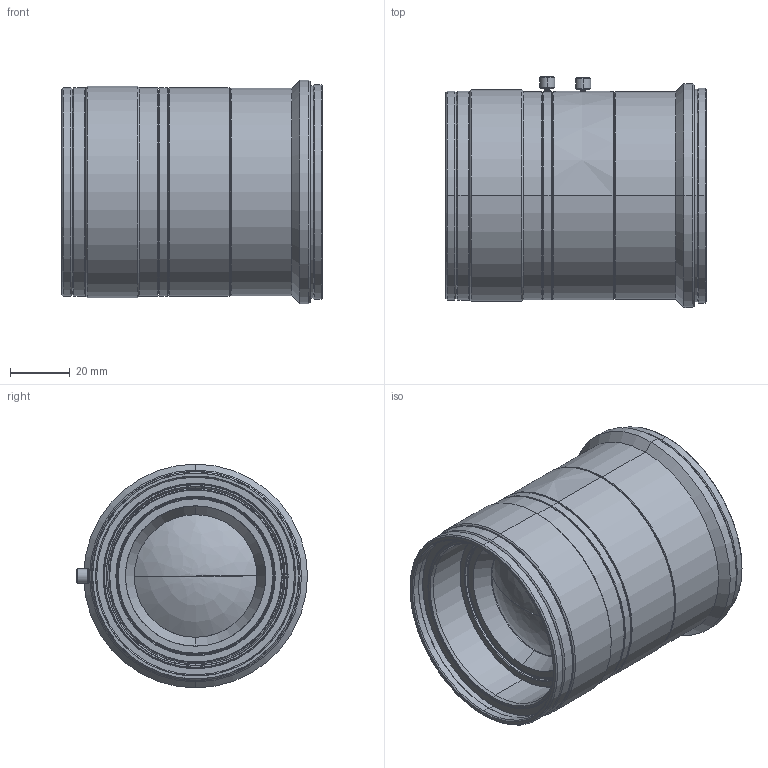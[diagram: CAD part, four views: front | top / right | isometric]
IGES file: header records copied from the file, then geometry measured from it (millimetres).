
Start section: SolidWorks IGES file using analytic representation for surfaces
Bounding box: 87.2 x 77.4 x 75 mm (x, y, z)
Surface area: 45017.5 mm2 (no closed solid volume)
Topology: 0 solids, 0 shells, 204 faces, 4284 edges, 4282 vertices
Faces by surface type: revolution 172, bspline 32
